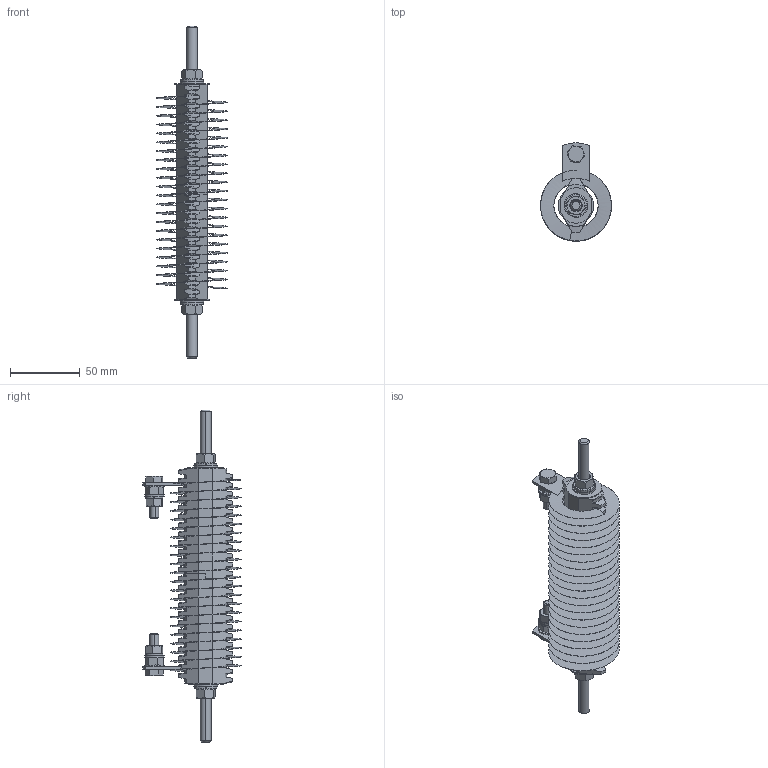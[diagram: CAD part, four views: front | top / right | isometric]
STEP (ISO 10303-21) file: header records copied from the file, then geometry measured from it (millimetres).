
FILE_DESCRIPTION (( 'STEP AP203' ), '1' );
FILE_NAME ('EDGS0400.STEP', '2014-02-26T20:02:22', ( '' ), ( '' ), 'SwSTEP 2.0', 'SolidWorks 2012', '' );
FILE_SCHEMA (( 'CONFIG_CONTROL_DESIGN' ));
Products named in the file (13): EDGS0400; Hex Nut01_0.3125" - 0.26" thk; 326167; Helical Coil_400; 032-012 - STUD MOUNT CERAMICS_032-012-TSECL; 0.30 inch threaded rod_0.3125" - 09.375" long; Lock Washer_0.3125" - 0.08" thk; Flat Washer_.3125" - .68" - .05"thk; Flat Washer_.25" - .5" - .04"thk; 12-800-011; lock washer spring_Regular LW 0.25; hex nut_HNUT 0.2500-20-D-C; Hex Head Srew_HBOLT 0.2500-20x1x1-C
Assembly tree (26 placements, depth 2):
  EDGS0400
    0.30 inch threaded rod_0.3125" - 09.375" long
    032-012 - STUD MOUNT CERAMICS_032-012-TSECL  x2
    Helical Coil_400
    326167  x2
    Hex Head Srew_HBOLT 0.2500-20x1x1-C  x2
    hex nut_HNUT 0.2500-20-D-C  x4
    lock washer spring_Regular LW 0.25  x2
    12-800-011  x2
    Flat Washer_.25" - .5" - .04"thk  x4
    Flat Washer_.3125" - .68" - .05"thk  x2
    Lock Washer_0.3125" - 0.08" thk  x2
    Hex Nut01_0.3125" - 0.26" thk  x2
Bounding box: 50.8 x 70.4 x 238.13 mm (x, y, z)
Volume: 102570.2 mm3; surface area: 95550.1 mm2
Topology: 26 solids, 26 shells, 562 faces, 1394 edges, 884 vertices
Faces by surface type: plane 184, bspline 152, cone 120, cylinder 90, torus 16
Entity records: 72253 total; most frequent: CARTESIAN_POINT 65266, ORIENTED_EDGE 1276, DIRECTION 865, EDGE_CURVE 638, VERTEX_POINT 408, AXIS2_PLACEMENT_3D 344, EDGE_LOOP 268, ADVANCED_FACE 254
